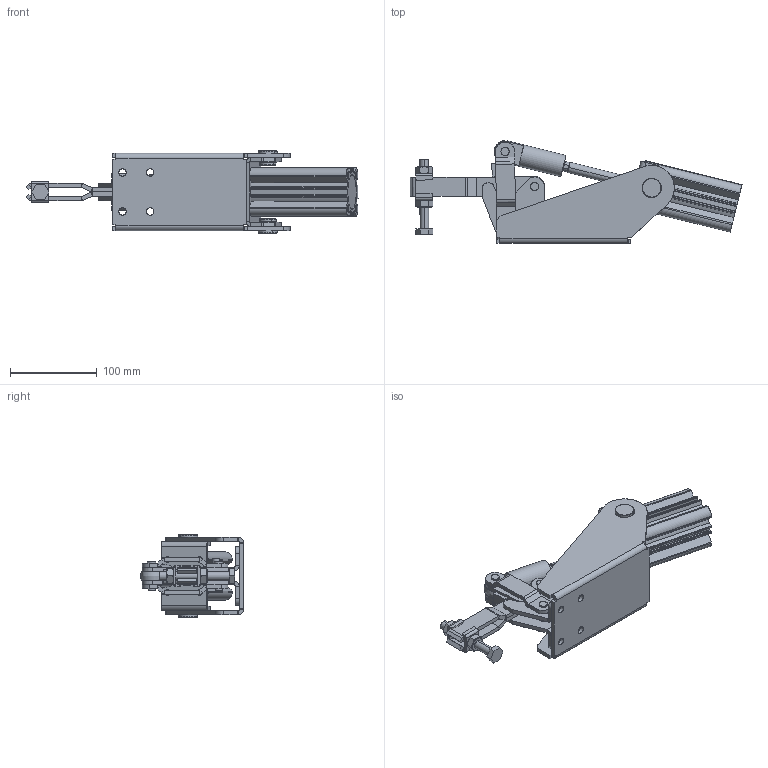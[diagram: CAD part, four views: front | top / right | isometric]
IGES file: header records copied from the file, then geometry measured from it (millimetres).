
Start section: SolidWorks IGES file using analytic representation for surfaces
Global section: file name: C:\Projetos\Grampos\KF-111 P\KF-111 DB P\KF-111 DB P.IGS; native system: SolidWorks 2015; preprocessor: SolidWorks 2015; author: Ricardo; date: 161215.092612; units: millimetre
Bounding box: 383.27 x 118.75 x 95.5 mm (x, y, z)
Surface area: 244404 mm2 (no closed solid volume)
Topology: 0 solids, 0 shells, 786 faces, 11290 edges, 11280 vertices
Faces by surface type: revolution 404, bspline 382
